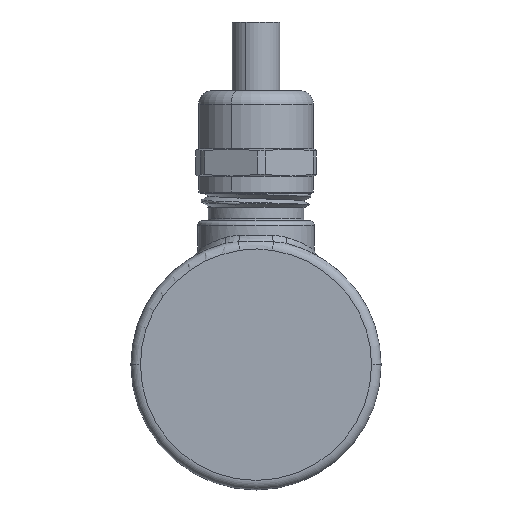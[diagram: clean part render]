
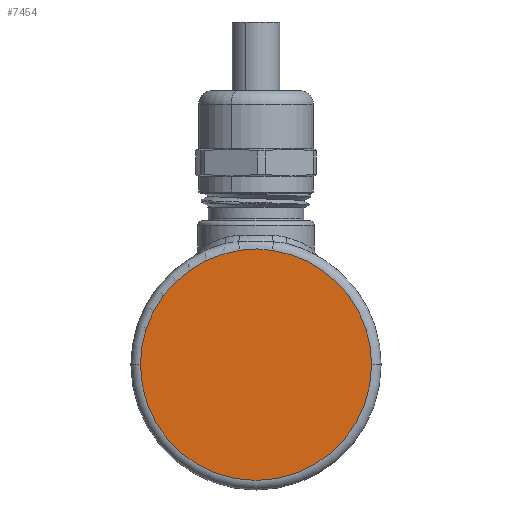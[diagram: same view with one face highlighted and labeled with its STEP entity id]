
A CAD part, front view. The second image highlights one B-rep face of the part: STEP entity #7454.
In plain terms, the highlighted planar face has unit normal (0, -1, 0).
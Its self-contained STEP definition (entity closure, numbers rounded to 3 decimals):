
#206 = CARTESIAN_POINT ( 'NONE',  ( -16.85, 0., 0. ) ) ;
#702 = CARTESIAN_POINT ( 'NONE',  ( 0., 0., 0. ) ) ;
#1277 = CARTESIAN_POINT ( 'NONE',  ( 0.789, 0., 16.883 ) ) ;
#1332 = VERTEX_POINT ( 'NONE', #206 ) ;
#1716 = CARTESIAN_POINT ( 'NONE',  ( 0., 0., 18.25 ) ) ;
#1872 = CARTESIAN_POINT ( 'NONE',  ( -2.379, 0., 16.681 ) ) ;
#2032 = ORIENTED_EDGE ( 'NONE', *, *, #7777, .T. ) ;
#2052 = CARTESIAN_POINT ( 'NONE',  ( 16.85, 0., 0. ) ) ;
#2288 = CARTESIAN_POINT ( 'NONE',  ( -0.797, 0., 16.883 ) ) ;
#2420 = CARTESIAN_POINT ( 'NONE',  ( -2.379, 0., 16.681 ) ) ;
#2616 = FACE_OUTER_BOUND ( 'NONE', #6624, .T. ) ;
#3580 = DIRECTION ( 'NONE',  ( 0., -1., 0. ) ) ;
#3792 = AXIS2_PLACEMENT_3D ( 'NONE', #11054, #3580, #13318 ) ;
#4242 = VERTEX_POINT ( 'NONE', #5110 ) ;
#4419 = B_SPLINE_CURVE_WITH_KNOTS ( 'NONE', 3,
 ( #6690, #12948, #5451, #1277, #12881, #8579, #2288, #6560, #9698, #2420 ),
 .UNSPECIFIED., .F., .F.,
 ( 4, 2, 2, 2, 4 ),
 ( 0., 0.001, 0.002, 0.004, 0.005 ),
 .UNSPECIFIED. ) ;
#4678 = DIRECTION ( 'NONE',  ( 0., -1., 0. ) ) ;
#5110 = CARTESIAN_POINT ( 'NONE',  ( 2.379, 0., 16.681 ) ) ;
#5451 = CARTESIAN_POINT ( 'NONE',  ( 1.584, 0., 16.798 ) ) ;
#5542 = VERTEX_POINT ( 'NONE', #1872 ) ;
#5677 = ORIENTED_EDGE ( 'NONE', *, *, #10879, .T. ) ;
#6241 = AXIS2_PLACEMENT_3D ( 'NONE', #1716, #11128, #7972 ) ;
#6560 = CARTESIAN_POINT ( 'NONE',  ( -1.589, 0., 16.797 ) ) ;
#6624 = EDGE_LOOP ( 'NONE', ( #10231, #2032, #6867, #5677 ) ) ;
#6690 = CARTESIAN_POINT ( 'NONE',  ( 2.379, 0., 16.681 ) ) ;
#6867 = ORIENTED_EDGE ( 'NONE', *, *, #11020, .T. ) ;
#6997 = AXIS2_PLACEMENT_3D ( 'NONE', #702, #13431, #11150 ) ;
#7443 = CIRCLE ( 'NONE', #6997, 16.85 ) ;
#7454 = ADVANCED_FACE ( 'NONE', ( #2616 ), #11264, .T. ) ;
#7777 = EDGE_CURVE ( 'NONE', #5542, #1332, #9807, .T. ) ;
#7881 = CARTESIAN_POINT ( 'NONE',  ( 0., 0., 0. ) ) ;
#7972 = DIRECTION ( 'NONE',  ( -1., 0., 0. ) ) ;
#8579 = CARTESIAN_POINT ( 'NONE',  ( -0.401, 0., 16.908 ) ) ;
#9468 = CIRCLE ( 'NONE', #11676, 16.85 ) ;
#9698 = CARTESIAN_POINT ( 'NONE',  ( -1.984, 0., 16.738 ) ) ;
#9807 = CIRCLE ( 'NONE', #3792, 16.85 ) ;
#10231 = ORIENTED_EDGE ( 'NONE', *, *, #10800, .T. ) ;
#10800 = EDGE_CURVE ( 'NONE', #4242, #5542, #4419, .T. ) ;
#10879 = EDGE_CURVE ( 'NONE', #13538, #4242, #7443, .T. ) ;
#11020 = EDGE_CURVE ( 'NONE', #1332, #13538, #9468, .T. ) ;
#11054 = CARTESIAN_POINT ( 'NONE',  ( 0., 0., 0. ) ) ;
#11128 = DIRECTION ( 'NONE',  ( 0., -1., 0. ) ) ;
#11150 = DIRECTION ( 'NONE',  ( -1., 0., 0. ) ) ;
#11232 = DIRECTION ( 'NONE',  ( -1., 0., 0. ) ) ;
#11264 = PLANE ( 'NONE',  #6241 ) ;
#11676 = AXIS2_PLACEMENT_3D ( 'NONE', #7881, #4678, #11232 ) ;
#12881 = CARTESIAN_POINT ( 'NONE',  ( 0.392, 0., 16.909 ) ) ;
#12948 = CARTESIAN_POINT ( 'NONE',  ( 1.982, 0., 16.738 ) ) ;
#13318 = DIRECTION ( 'NONE',  ( -1., 0., 0. ) ) ;
#13431 = DIRECTION ( 'NONE',  ( 0., -1., 0. ) ) ;
#13538 = VERTEX_POINT ( 'NONE', #2052 ) ;
